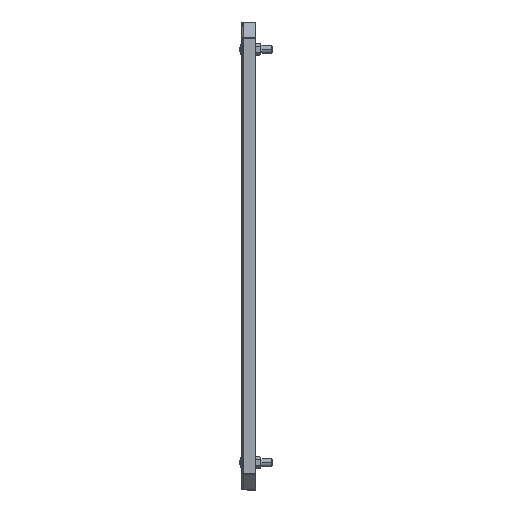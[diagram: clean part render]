
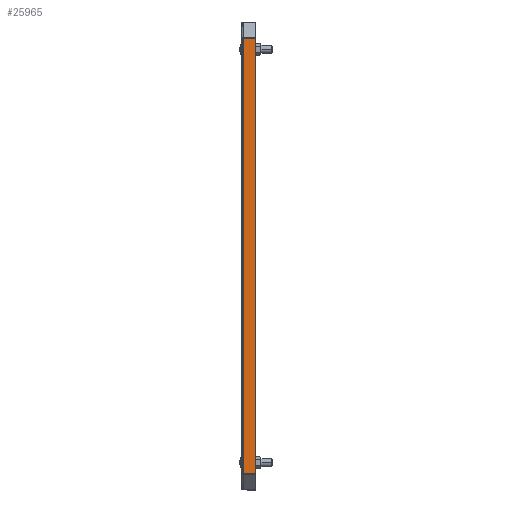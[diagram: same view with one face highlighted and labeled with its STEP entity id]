
A CAD part, left-side view. The second image highlights one B-rep face of the part: STEP entity #25965.
In plain terms, the highlighted planar face has unit normal (-1, 0, 0).
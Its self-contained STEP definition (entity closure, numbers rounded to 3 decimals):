
#1647 = VERTEX_POINT ( 'NONE', #2636 ) ;
#1689 = VERTEX_POINT ( 'NONE', #2651 ) ;
#1707 = VERTEX_POINT ( 'NONE', #2660 ) ;
#1709 = VERTEX_POINT ( 'NONE', #2662 ) ;
#2636 = CARTESIAN_POINT ( 'NONE',  ( -300., -2.4, -279.395 ) ) ;
#2651 = CARTESIAN_POINT ( 'NONE',  ( -300., -18., 279.395 ) ) ;
#2660 = CARTESIAN_POINT ( 'NONE',  ( -300., -18., -279.395 ) ) ;
#2662 = CARTESIAN_POINT ( 'NONE',  ( -300., -2.4, 279.395 ) ) ;
#8042 = LINE ( 'NONE', #8043, #8350 ) ;
#8043 = CARTESIAN_POINT ( 'NONE',  ( -300., -18., 280. ) ) ;
#8044 = DIRECTION ( 'NONE',  ( 0., 0., -1. ) ) ;
#8056 = LINE ( 'NONE', #8066, #8356 ) ;
#8066 = CARTESIAN_POINT ( 'NONE',  ( -300., -1.2, 279.395 ) ) ;
#8067 = DIRECTION ( 'NONE',  ( 0., -1., 0. ) ) ;
#8099 = LINE ( 'NONE', #8100, #8367 ) ;
#8100 = CARTESIAN_POINT ( 'NONE',  ( -300., -2.4, 280. ) ) ;
#8101 = DIRECTION ( 'NONE',  ( 0., 0., 1. ) ) ;
#8350 = VECTOR ( 'NONE', #8044, 1000. ) ;
#8356 = VECTOR ( 'NONE', #8067, 1000. ) ;
#8367 = VECTOR ( 'NONE', #8101, 1000. ) ;
#8432 = VECTOR ( 'NONE', #9014, 1000. ) ;
#9003 = LINE ( 'NONE', #9013, #8432 ) ;
#9013 = CARTESIAN_POINT ( 'NONE',  ( -300., -18., -279.395 ) ) ;
#9014 = DIRECTION ( 'NONE',  ( 0., -1., 0. ) ) ;
#15776 = PLANE ( 'NONE',  #16409 ) ;
#15777 = CARTESIAN_POINT ( 'NONE',  ( -300., -18., 280. ) ) ;
#15778 = DIRECTION ( 'NONE',  ( 1., 0., 0. ) ) ;
#15779 = DIRECTION ( 'NONE',  ( 0., 1., 0. ) ) ;
#16406 = FACE_OUTER_BOUND ( 'NONE', #39797, .T. ) ;
#16409 = AXIS2_PLACEMENT_3D ( 'NONE', #15777, #15778, #15779 ) ;
#21787 = ORIENTED_EDGE ( 'NONE', *, *, #22205, .F. ) ;
#21788 = ORIENTED_EDGE ( 'NONE', *, *, #22252, .F. ) ;
#21789 = ORIENTED_EDGE ( 'NONE', *, *, #22418, .T. ) ;
#21791 = ORIENTED_EDGE ( 'NONE', *, *, #22227, .F. ) ;
#22205 = EDGE_CURVE ( 'NONE', #1689, #1707, #8042, .T. ) ;
#22227 = EDGE_CURVE ( 'NONE', #1709, #1689, #8056, .T. ) ;
#22252 = EDGE_CURVE ( 'NONE', #1647, #1709, #8099, .T. ) ;
#22418 = EDGE_CURVE ( 'NONE', #1647, #1707, #9003, .T. ) ;
#25965 = ADVANCED_FACE ( 'NONE', ( #16406 ), #15776, .F. ) ;
#39797 = EDGE_LOOP ( 'NONE', ( #21788, #21789, #21787, #21791 ) ) ;
